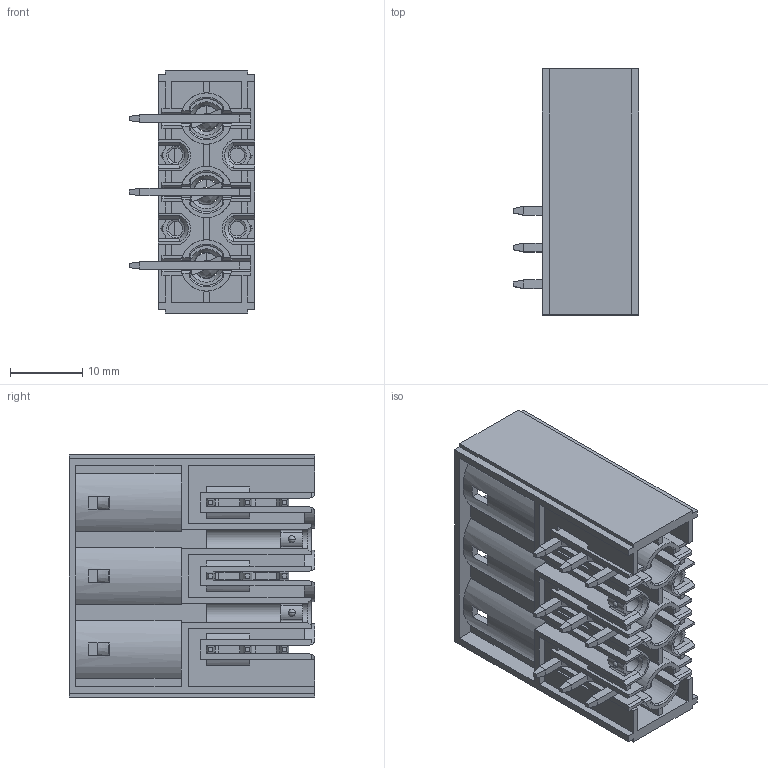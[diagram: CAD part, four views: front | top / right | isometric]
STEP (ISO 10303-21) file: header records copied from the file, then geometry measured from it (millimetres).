
FILE_DESCRIPTION((''),'2;1');
FILE_NAME('EW036152000AG','2021-01-08T',('renkang.li'),(''),'CREO PARAMETRIC BY PTC INC, 2016260','CREO PARAMETRIC BY PTC INC, 2016260','');
FILE_SCHEMA(('CONFIG_CONTROL_DESIGN'));
Length unit declared in the file: millimetre
Products named in the file (1): EW036152000AG
Bounding box: 17.4 x 34 x 33.52 mm (x, y, z)
Volume: 6227.8 mm3; surface area: 12888.4 mm2
Topology: 13 solids, 13 shells, 931 faces, 2641 edges, 1708 vertices
Faces by surface type: plane 739, cylinder 124, cone 24, bspline 24, torus 12, sphere 8
Entity records: 31109 total; most frequent: CARTESIAN_POINT 6868, ORIENTED_EDGE 5266, DIRECTION 4742, EDGE_CURVE 2633, VECTOR 2068, LINE 2068, VERTEX_POINT 1708, AXIS2_PLACEMENT_3D 1337
